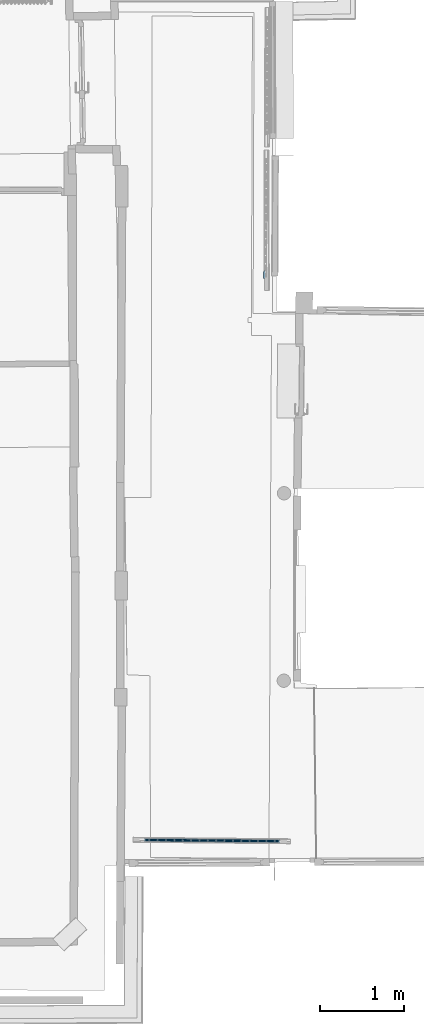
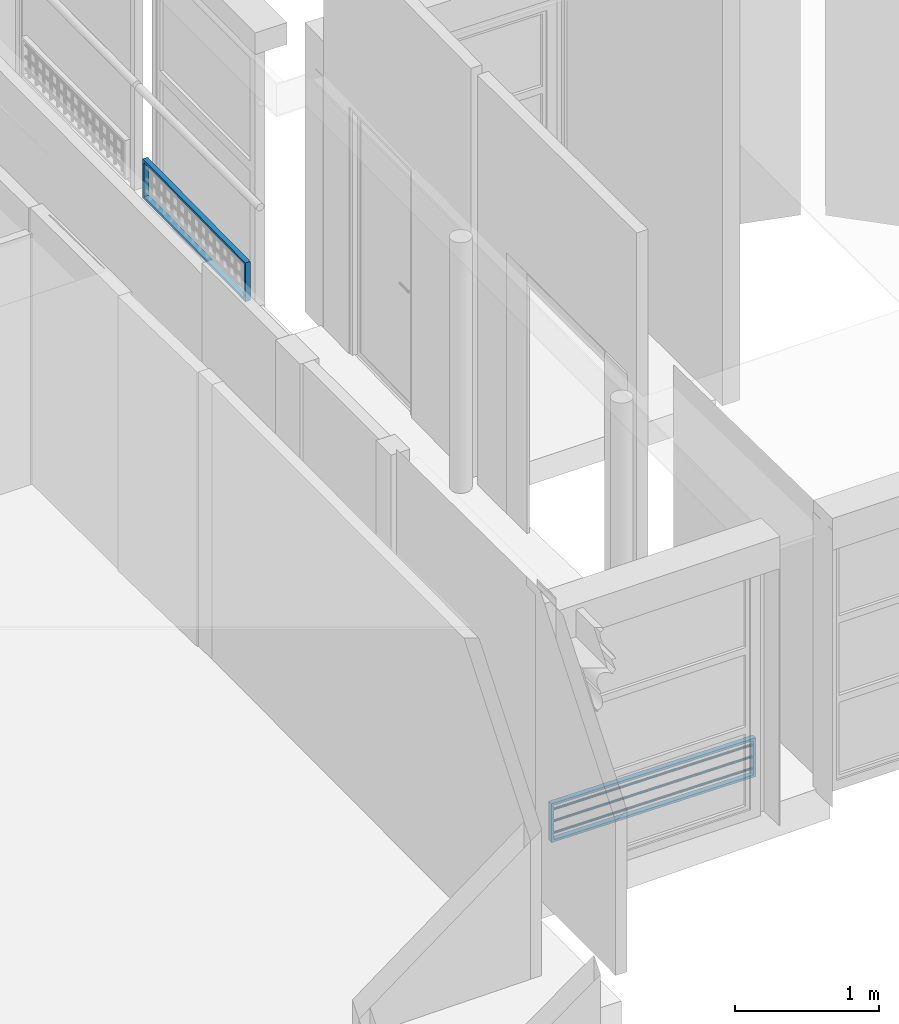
# One storey, part 26 of 72: 5 members, 2 elements without a shape of their own.
"""IFC2X3 building model written with IfcOpenShell, lengths in centimetres."""

from ifc_helpers import new_model, entity, si_unit, converted_unit, direction, frame, origin, origin_with_axes, place, context, subcontext, project, spatial, faceted_brep, material, type_object, element, aggregate, save


model = new_model("IFC2X3")

# Units and contexts
model_context = context("Model", 3, precision=0.0001, world=origin(), true_north=direction((0.225632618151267, 0.974212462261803, 0.0)))
body_context = subcontext(model_context, "Body", "Model", "MODEL_VIEW")
ifc_project = project(units=[si_unit("LENGTHUNIT", "METRE", prefix="CENTI"), si_unit("AREAUNIT", "SQUARE_METRE", prefix="CENTI"), si_unit("VOLUMEUNIT", "CUBIC_METRE", prefix="CENTI"), converted_unit("PLANEANGLEUNIT", "DEGREE", entity("IfcRatioMeasure", 0.0174532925), si_unit("PLANEANGLEUNIT", "RADIAN"), dimensions=[0, 0, 0, 0, 0, 0, 0])], contexts=[model_context])

# Site, building, storey
site_placement = place(None, origin_with_axes())
site = spatial("IfcSite", under=ifc_project, at=site_placement, Name="Default Site", CompositionType="ELEMENT")
building_placement = place(site_placement, origin_with_axes())
building = spatial("IfcBuilding", under=site, at=building_placement, Name="Default Building", CompositionType="ELEMENT")
storey_placement = place(building_placement, frame((0.0, 0.0, 853.910374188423), z_axis=(0.0, 0.0, 1.0), x_axis=(1.0, 0.0, 0.0)))
storey = spatial("IfcBuildingStorey", under=building, at=storey_placement, Name="Niveau 2", CompositionType="ELEMENT", Elevation=853.910374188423)

# Assembly, members
building_element_proxy_type = type_object("IfcBuildingElementProxyType", Name="Type Object", PredefinedType="NOTDEFINED")
assembly_1_placement = place(storey_placement, frame((1081.02208703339, -852.418210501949, 11.9999999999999), z_axis=(0.0, 0.0, 1.0), x_axis=(-0.999957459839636, 0.00922380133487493, 0.0)))
assembly_1 = element("IfcElementAssembly", 1, at=assembly_1_placement, inside=storey, type_object=building_element_proxy_type, Name="Panneau 1702017", ObjectType="Precast panel", PredefinedType="USERDEFINED")
ifc_material = material(Name="Aluminium satiné")
member_1_placement = place(assembly_1_placement, frame((1.99999995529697, 1.99999995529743, 31.000000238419), z_axis=(1.0, -3.79904441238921e-15, -1.19636099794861e-17), x_axis=(3.79904441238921e-15, 1.0, 0.0)))
member_1 = element("IfcMember", 2, at=member_1_placement, material=ifc_material, Name="4294967193", context=body_context, shape_type="Brep", body=[
    faceted_brep([(1.85615411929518e-13, 0.0, -3.62904151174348e-13), (-3.99999991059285, 0.0, -3.47701034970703e-13), (-3.99999991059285, -29.0000002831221, -3.47701034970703e-13), (1.85615411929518e-13, -29.0000002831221, -3.62904151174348e-13), (-3.99999991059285, 0.0, -3.47638584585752e-13), (-3.99999991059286, 2.00000107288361, -1.99999995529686), (-3.99999991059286, -31.0000002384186, -1.99999995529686), (-3.99999991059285, -29.0000002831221, -3.47291639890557e-13), (1.7798262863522e-13, 2.00000107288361, -1.99999995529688), (1.7798262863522e-13, -31.0000002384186, -1.99999995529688), (1.85584186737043e-13, 1.41999750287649e-48, -3.62904151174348e-13), (1.85584186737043e-13, -29.0000002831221, -3.62557206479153e-13), (1.85615411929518e-13, -29.0000002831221, -3.62557206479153e-13), (-3.99999991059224, -29.0000002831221, 159.000001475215), (7.89993070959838e-13, -29.0000002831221, 159.000001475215), (-3.99999991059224, -31.0000002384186, 160.999999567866), (7.97625854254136e-13, -31.0000002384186, 160.999999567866), (7.89908074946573e-13, -29.0000002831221, 159.000001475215), (7.97509625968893e-13, -31.0000002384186, 160.999999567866), (-3.99999991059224, 2.65645505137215e-31, 159.000001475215), (7.89993070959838e-13, 0.0, 159.000001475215), (-3.99999991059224, 2.00000107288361, 160.999999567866), (-3.99999991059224, 0.0, 159.000001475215), (7.97625854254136e-13, 2.00000107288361, 160.999999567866), (7.90024303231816e-13, -29.0000002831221, 159.000001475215), (7.90024303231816e-13, -1.4203194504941e-48, 159.000001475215), (-3.99999991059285, -1.90221400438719e-15, -3.47638584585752e-13), (1.85615411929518e-13, -1.90221400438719e-15, -3.62904151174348e-13), (-3.99999991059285, -3.1555328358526e-47, -3.47638584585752e-13), (1.7798262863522e-13, 2.0000010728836, -1.99999995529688), (-3.99999991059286, 2.0000010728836, -1.99999995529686), (1.85700415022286e-13, -3.86560241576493e-48, -3.62904151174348e-13), (1.78098856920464e-13, 2.00000107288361, -1.99999995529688)], [[[0, 1, 2, 3]], [[4, 5, 6, 7]], [[5, 8, 9, 6]], [[8, 10, 11, 9]], [[12, 7, 13, 14]], [[7, 6, 15, 13]], [[6, 9, 16, 15]], [[9, 11, 17, 18]], [[14, 13, 19, 20]], [[13, 15, 21, 22]], [[15, 16, 23, 21]], [[16, 24, 25, 23]], [[20, 22, 26, 27]], [[22, 21, 5, 28]], [[21, 23, 29, 30]], [[23, 25, 31, 32]]]),
])
member_2_placement = place(assembly_1_placement, frame((161.000001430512, 0.342020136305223, 25.560307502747), z_axis=(1.0, 2.21832968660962e-13, 1.2807376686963e-13), x_axis=(2.56149268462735e-13, -0.86602415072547, -0.500002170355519)))
member_2 = element("IfcMember", 3, at=member_2_placement, material=ifc_material, Name="4294967192", context=body_context, shape_type="Brep", body=[
    faceted_brep([(-4.91273688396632e-13, 0.0, -2.66453525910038e-13), (-0.347296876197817, -3.33066907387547e-14, -1.77494890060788e-13), (-0.673647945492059, -0.11877972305, -9.3901434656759e-14), (-0.939693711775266, -0.342018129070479, -2.57549292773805e-14), (-1.11334216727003, -0.642784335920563, 1.87243931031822e-14), (-1.17365112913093, -0.984805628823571, 3.41722803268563e-14), (-1.11334356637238, -1.32682410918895, 1.87247514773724e-14), (-0.939696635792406, -1.6275928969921, -2.57541803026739e-14), (-0.673653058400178, -1.85083187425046, -9.39001250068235e-14), (-0.347301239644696, -1.96961451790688, -1.77493772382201e-13), (-4.36344737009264e-06, -1.96961451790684, -2.6645240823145e-13), (0.326346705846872, -1.85083479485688, -3.50045863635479e-13), (0.592392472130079, -1.6275963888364, -4.18192369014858e-13), (0.766040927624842, -1.32683018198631, -4.62671691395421e-13), (0.826349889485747, -0.984808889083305, -4.78119578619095e-13), (0.766042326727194, -0.642790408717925, -4.6267204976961e-13), (0.592395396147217, -0.342021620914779, -4.18193117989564e-13), (0.326351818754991, -0.118782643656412, -3.50047173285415e-13), (0.326351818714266, -0.118782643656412, -159.000001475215), (0.592395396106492, -0.342021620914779, -159.000001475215), (0.766042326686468, -0.642790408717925, -159.000001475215), (0.826349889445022, -0.984808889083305, -159.000001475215), (0.766040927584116, -1.32683018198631, -159.000001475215), (0.592392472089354, -1.6275963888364, -159.000001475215), (0.326346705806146, -1.85083479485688, -159.000001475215), (-4.3634880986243e-06, -1.96961451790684, -159.000001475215), (-0.347301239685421, -1.96961451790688, -159.000001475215), (-0.673653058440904, -1.85083187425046, -159.000001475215), (-0.939696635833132, -1.6275928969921, -159.000001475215), (-1.11334356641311, -1.32682410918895, -159.000001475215), (-1.17365112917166, -0.984805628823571, -159.000001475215), (-1.11334216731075, -0.642784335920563, -159.000001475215), (-0.939693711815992, -0.342018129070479, -159.000001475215), (-0.673647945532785, -0.11877972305, -159.000001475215), (-0.34729687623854, -3.33066907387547e-14, -159.000001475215), (-4.12170297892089e-11, 0.0, -159.000001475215), (0.326351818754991, -0.118782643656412, -3.33066907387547e-13), (0.592395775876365, -0.34202116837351, -3.99680386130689e-13), (0.592395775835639, -0.342021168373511, -159.000001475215), (0.326351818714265, -0.118782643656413, -159.000001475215), (0.592395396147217, -0.342021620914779, -3.99680288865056e-13), (0.766043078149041, -0.642789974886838, -4.44089402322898e-13), (0.766043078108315, -0.642789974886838, -159.000001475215), (0.592395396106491, -0.342021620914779, -159.000001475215), (0.766042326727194, -0.642790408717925, -4.44089209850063e-13), (0.826348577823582, -0.984809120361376, -4.66293334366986e-13), (0.826348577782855, -0.984809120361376, -159.000001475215), (0.766042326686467, -0.642790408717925, -159.000001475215), (0.826349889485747, -0.984808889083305, -4.66293670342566e-13), (0.766041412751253, -1.32683026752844, -4.44089334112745e-13), (0.766041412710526, -1.32683026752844, -159.000001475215), (0.82634988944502, -0.984808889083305, -159.000001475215), (0.766040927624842, -1.32683018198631, -4.44089209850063e-13), (0.592392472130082, -1.6275963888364, -3.99680288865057e-13), (0.592392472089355, -1.6275963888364, -159.000001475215), (0.766040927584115, -1.32683018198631, -159.000001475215), (0.592392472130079, -1.6275963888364, -3.99680288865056e-13), (0.326346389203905, -1.85083441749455, -3.33066826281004e-13), (0.326346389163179, -1.85083441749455, -159.000001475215), (0.592392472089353, -1.6275963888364, -159.000001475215), (0.326346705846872, -1.85083479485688, -3.33066907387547e-13), (-3.90791524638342e-06, -1.96961576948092, -2.44249182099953e-13), (-3.90795597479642e-06, -1.96961576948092, -159.000001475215), (-4.36344737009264e-06, -1.96961451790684, -2.44249065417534e-13), (-0.347301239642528, -1.96961365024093, -1.55431223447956e-13), (-0.347301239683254, -1.96961365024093, -159.000001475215), (-0.347301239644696, -1.96961451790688, -1.55431223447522e-13), (-0.673652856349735, -1.85083131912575, -6.66134332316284e-14), (-0.673652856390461, -1.85083131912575, -159.000001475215), (-0.347301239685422, -1.96961451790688, -159.000001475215), (-0.673653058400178, -1.85083187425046, -6.66133814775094e-14), (-0.939697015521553, -1.62759334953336, -2.22043632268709e-14), (-0.939697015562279, -1.62759334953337, -159.000001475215), (-0.673653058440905, -1.85083187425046, -159.000001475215), (-0.939696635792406, -1.6275928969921, -2.22044604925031e-14), (-1.11334431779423, -1.32682454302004, 2.22046529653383e-14), (-1.11334431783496, -1.32682454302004, -159.000001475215), (-1.11334356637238, -1.32682410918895, 2.22044604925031e-14), (-1.17364981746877, -0.9848053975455, 6.66130455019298e-14), (-1.1736498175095, -0.9848053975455, -159.000001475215), (-1.17365112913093, -0.984805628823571, 6.66133814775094e-14), (-1.11334265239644, -0.64278425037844, 4.44090452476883e-14), (-1.11334265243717, -0.642784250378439, -159.000001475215), (-1.17365112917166, -0.98480562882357, -159.000001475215), (-1.11334216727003, -0.642784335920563, 4.44089209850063e-14), (-0.939693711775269, -0.342018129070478, 5.57974254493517e-28), (-0.939693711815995, -0.342018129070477, -159.000001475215), (-1.11334216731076, -0.642784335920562, -159.000001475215), (-0.939693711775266, -0.342018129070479, 0.0), (-0.673647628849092, -0.118780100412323, -6.66134625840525e-14), (-0.673647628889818, -0.118780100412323, -159.000001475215), (-0.939693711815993, -0.342018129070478, -159.000001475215), (-0.673647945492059, -0.11877972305, -6.66133814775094e-14), (-0.34729733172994, 1.25157403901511e-06, -1.77635567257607e-13), (-0.347297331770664, 1.25157404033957e-06, -159.000001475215), (-0.673647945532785, -0.118779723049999, -159.000001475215), (-0.347296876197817, -3.33066907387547e-14, -1.77635683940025e-13), (-2.65899883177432e-12, -8.67665949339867e-07, -2.66453525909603e-13), (-4.33847549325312e-11, -8.67665949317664e-07, -159.000001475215), (-0.34729687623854, -3.32844945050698e-14, -159.000001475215), (0.326351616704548, -0.118783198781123, -3.33066855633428e-13), (0.326351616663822, -0.118783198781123, -159.000001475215), (-4.12171733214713e-11, -3.94348580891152e-16, -159.000001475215)], [[[0, 1, 2, 3, 4, 5, 6, 7, 8, 9, 10, 11, 12, 13, 14, 15, 16, 17]], [[18, 19, 20, 21, 22, 23, 24, 25, 26, 27, 28, 29, 30, 31, 32, 33, 34, 35]], [[36, 37, 38, 39]], [[40, 41, 42, 43]], [[44, 45, 46, 47]], [[48, 49, 50, 51]], [[52, 53, 54, 55]], [[56, 57, 58, 59]], [[60, 61, 62, 24]], [[63, 64, 65, 25]], [[66, 67, 68, 69]], [[70, 71, 72, 73]], [[74, 75, 76, 28]], [[77, 78, 79, 29]], [[80, 81, 82, 83]], [[84, 85, 86, 87]], [[88, 89, 90, 91]], [[92, 93, 94, 95]], [[96, 97, 98, 99]], [[0, 100, 101, 102]]]),
])
member_3_placement = place(assembly_1_placement, frame((161.000001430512, 0.342020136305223, 15.5603080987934), z_axis=(1.0, 2.21832968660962e-13, 1.2807376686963e-13), x_axis=(2.56151003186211e-13, -0.866026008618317, -0.49999895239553)))
member_3 = element("IfcMember", 4, at=member_3_placement, material=ifc_material, Name="4294967191", context=body_context, shape_type="Brep", body=[
    faceted_brep([(-2.85882428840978e-13, 5.55111512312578e-14, -2.88657986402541e-13), (-0.347296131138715, 2.22044604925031e-14, -1.99699541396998e-13), (-0.673647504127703, -0.118782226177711, -1.16105905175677e-13), (-0.939691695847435, -0.342020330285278, -4.79596094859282e-14), (-1.11333977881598, -0.642788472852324, -3.48012165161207e-15), (-1.17364672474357, -0.984808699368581, 1.19675458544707e-14), (-1.11333863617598, -1.32682824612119, -3.47982102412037e-15), (-0.939690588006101, -1.6275963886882, -4.79587781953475e-14), (-0.673645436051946, -1.8508330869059, -1.16104932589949e-13), (-0.347293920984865, -1.96961580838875, -1.99698399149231e-13), (2.95521006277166e-06, -1.9696145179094, -2.88657034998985e-13), (0.326354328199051, -1.85083229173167, -3.72250671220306e-13), (0.592398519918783, -1.6275941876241, -4.40396966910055e-13), (0.766046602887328, -1.32682604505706, -4.84876454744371e-13), (0.82635354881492, -0.984805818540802, -5.00324122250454e-13), (0.766045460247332, -0.642786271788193, -4.84876755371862e-13), (0.59239666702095, -0.342019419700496, -4.40397607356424e-13), (0.326352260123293, -0.118781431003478, -3.72251643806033e-13), (0.326352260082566, -0.118781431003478, -159.000001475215), (0.592396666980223, -0.342019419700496, -159.000001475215), (0.766045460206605, -0.642786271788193, -159.000001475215), (0.826353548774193, -0.984805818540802, -159.000001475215), (0.766046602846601, -1.32682604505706, -159.000001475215), (0.592398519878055, -1.6275941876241, -159.000001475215), (0.326354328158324, -1.85083229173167, -159.000001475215), (2.95516933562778e-06, -1.9696145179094, -159.000001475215), (-0.347293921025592, -1.96961580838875, -159.000001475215), (-0.673645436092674, -1.8508330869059, -159.000001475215), (-0.939690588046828, -1.6275963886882, -159.000001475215), (-1.11333863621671, -1.32682824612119, -159.000001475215), (-1.1736467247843, -0.984808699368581, -159.000001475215), (-1.11333977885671, -0.642788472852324, -159.000001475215), (-0.939691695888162, -0.342020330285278, -159.000001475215), (-0.67364750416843, -0.118782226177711, -159.000001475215), (-0.347296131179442, 2.22044604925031e-14, -159.000001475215), (-4.10130263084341e-11, 5.55111512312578e-14, -159.000001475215), (0.326352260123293, -0.118781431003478, -3.77475828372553e-13), (0.592397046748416, -0.342018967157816, -4.21884846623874e-13), (0.592397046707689, -0.342018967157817, -159.000001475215), (0.326352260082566, -0.118781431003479, -159.000001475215), (0.59239666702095, -0.342019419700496, -4.21884749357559e-13), (0.766045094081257, -0.642786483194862, -4.66293576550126e-13), (0.766045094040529, -0.642786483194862, -159.000001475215), (0.766045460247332, -0.642786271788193, -4.66293670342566e-13), (0.826353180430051, -0.984805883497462, -5.10702496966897e-13), (0.826353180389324, -0.984805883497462, -159.000001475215), (0.766045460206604, -0.642786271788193, -159.000001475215), (0.82635354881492, -0.984805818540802, -5.10702591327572e-13), (0.766046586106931, -1.32682604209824, -4.88498126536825e-13), (0.766046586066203, -1.32682604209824, -159.000001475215), (0.766046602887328, -1.32682604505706, -4.88498130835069e-13), (0.592398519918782, -1.6275941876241, -4.44089209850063e-13), (0.592398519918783, -1.6275941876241, -4.44089209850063e-13), (0.326354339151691, -1.85083230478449, -3.77475831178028e-13), (0.326354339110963, -1.85083230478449, -159.000001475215), (0.326354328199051, -1.85083229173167, -3.77475828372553e-13), (3.08314922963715e-06, -1.96961486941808, -2.66453558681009e-13), (3.08310850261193e-06, -1.96961486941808, -159.000001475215), (2.95521006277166e-06, -1.9696145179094, -2.66453525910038e-13), (-0.347293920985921, -1.9696149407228, -1.77635683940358e-13), (-0.347293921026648, -1.9696149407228, -159.000001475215), (-0.347293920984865, -1.96961580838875, -1.77635683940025e-13), (-0.673645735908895, -1.85083391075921, -1.11022225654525e-13), (-0.673645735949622, -1.85083391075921, -159.000001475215), (-0.673645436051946, -1.8508330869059, -1.11022302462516e-13), (-0.939690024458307, -1.62759571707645, -4.44090653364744e-14), (-0.939690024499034, -1.62759571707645, -159.000001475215), (-0.939690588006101, -1.6275963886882, -4.44089209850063e-14), (-1.11333938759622, -1.32682867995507, 1.92474239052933e-19), (-1.11333938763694, -1.32682867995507, -159.000001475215), (-1.11333863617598, -1.32682824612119, 0.0), (-1.1736463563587, -0.984808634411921, 2.22043661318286e-14), (-1.17364635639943, -0.984808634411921, -159.000001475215), (-1.17364672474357, -0.984808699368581, 2.22044604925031e-14), (-1.11333976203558, -0.642788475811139, -4.29824416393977e-21), (-1.11333976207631, -0.642788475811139, -159.000001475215), (-1.11333977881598, -0.642788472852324, 0.0), (-0.939691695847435, -0.342020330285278, -4.44089209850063e-14), (-0.673647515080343, -0.118782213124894, -1.1102229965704e-13), (-0.67364751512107, -0.118782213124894, -159.000001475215), (-0.673647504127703, -0.118782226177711, -1.11022302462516e-13), (-0.347296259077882, 3.51508696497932e-07, -1.99840111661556e-13), (-0.347296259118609, 3.51508696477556e-07, -159.000001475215), (-0.347296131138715, 2.22044604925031e-14, -1.99840144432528e-13), (-8.00631582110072e-13, 4.22812514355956e-07, -2.88657986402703e-13), (-4.15277754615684e-11, 4.22812514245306e-07, -159.000001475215), (-0.347296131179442, 2.20938105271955e-14, -159.000001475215), (0.326352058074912, -0.118781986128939, -3.77475776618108e-13), (0.326352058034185, -0.11878198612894, -159.000001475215), (-4.1013086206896e-11, 5.53465809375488e-14, -159.000001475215)], [[[0, 1, 2, 3, 4, 5, 6, 7, 8, 9, 10, 11, 12, 13, 14, 15, 16, 17]], [[18, 19, 20, 21, 22, 23, 24, 25, 26, 27, 28, 29, 30, 31, 32, 33, 34, 35]], [[36, 37, 38, 39]], [[40, 41, 42, 19]], [[43, 44, 45, 46]], [[47, 48, 49, 21]], [[50, 51, 23, 22]], [[52, 53, 54, 23]], [[55, 56, 57, 24]], [[58, 59, 60, 25]], [[61, 62, 63, 26]], [[64, 65, 66, 27]], [[67, 68, 69, 28]], [[70, 71, 72, 29]], [[73, 74, 75, 30]], [[76, 77, 32, 31]], [[77, 78, 79, 32]], [[80, 81, 82, 33]], [[83, 84, 85, 86]], [[0, 87, 88, 89]]]),
])
member_4_placement = place(assembly_1_placement, frame((161.000001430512, 0.342020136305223, 5.56030720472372), z_axis=(1.0, 2.21834703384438e-13, 1.28074634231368e-13), x_axis=(2.56151003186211e-13, -0.866025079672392, -0.500000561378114)))
member_4 = element("IfcMember", 5, at=member_4_placement, material=ifc_material, Name="4294967190", context=body_context, shape_type="Brep", body=[
    faceted_brep([(-1.06165076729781e-13, 5.41233724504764e-14, -1.33226762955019e-13), (-0.347296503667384, 1.94289029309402e-14, -4.42676200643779e-14), (-0.67364828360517, -0.11878194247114, 3.93265834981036e-14), (-0.939693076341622, -0.342019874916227, 1.07473301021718e-13), (-1.11334134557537, -0.642787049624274, 1.51952876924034e-13), (-1.17364892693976, -0.984807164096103, 1.67400515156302e-13), (-1.11334184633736, -1.32682746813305, 1.51953005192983e-13), (-0.939693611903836, -1.62759464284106, 1.07473438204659e-13), (-0.67364961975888, -1.85083312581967, 3.9326925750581e-14), (-0.347297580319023, -1.9696151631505, -4.42673442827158e-14), (-1.44918119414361e-06, -1.96961580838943, -1.33226391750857e-13), (0.326350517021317, -1.85083354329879, -2.16820643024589e-13), (0.592395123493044, -1.62759593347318, -2.84967312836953e-13), (0.766043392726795, -1.32682875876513, -3.2944688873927e-13), (0.826351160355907, -0.984808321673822, -3.44894574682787e-13), (0.766043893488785, -0.64278834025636, -3.29447017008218e-13), (0.592396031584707, -0.342020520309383, -2.84967545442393e-13), (0.326351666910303, -0.118782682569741, -2.16820937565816e-13), (0.326351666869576, -0.118782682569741, -159.000001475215), (0.59239603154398, -0.342020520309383, -159.000001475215), (0.766043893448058, -0.64278834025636, -159.000001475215), (0.82635116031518, -0.984808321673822, -159.000001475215), (0.766043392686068, -1.32682875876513, -159.000001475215), (0.592395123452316, -1.62759593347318, -159.000001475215), (0.326350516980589, -1.85083354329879, -159.000001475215), (-1.44922192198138e-06, -1.96961580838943, -159.000001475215), (-0.347297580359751, -1.9696151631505, -159.000001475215), (-0.673649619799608, -1.85083312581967, -159.000001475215), (-0.939693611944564, -1.62759464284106, -159.000001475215), (-1.11334184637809, -1.32682746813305, -159.000001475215), (-1.17364892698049, -0.984807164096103, -159.000001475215), (-1.1133413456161, -0.642787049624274, -159.000001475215), (-0.93969307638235, -0.342019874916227, -159.000001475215), (-0.673648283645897, -0.11878194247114, -159.000001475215), (-0.347296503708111, 1.94289029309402e-14, -159.000001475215), (-4.08333089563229e-11, 5.41233724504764e-14, -159.000001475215), (0.326351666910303, -0.118782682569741, -1.99840144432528e-13), (0.592395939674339, -0.342020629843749, -2.66453502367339e-13), (0.592395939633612, -0.342020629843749, -159.000001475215), (0.326351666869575, -0.118782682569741, -159.000001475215), (0.592396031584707, -0.342020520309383, -2.66453525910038e-13), (0.766044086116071, -0.642788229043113, -3.10862496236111e-13), (0.766044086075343, -0.642788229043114, -159.000001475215), (0.766043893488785, -0.64278834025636, -3.10862446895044e-13), (0.826351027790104, -0.984808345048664, -3.33066873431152e-13), (0.826351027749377, -0.984808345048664, -159.000001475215), (0.766043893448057, -0.64278834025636, -159.000001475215), (0.826351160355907, -0.984808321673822, -3.33066907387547e-13), (0.766043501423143, -1.32682877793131, -3.33066935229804e-13), (0.766043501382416, -1.32682877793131, -159.000001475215), (0.766043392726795, -1.32682875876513, -3.33066907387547e-13), (0.592395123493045, -1.62759593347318, -2.88657986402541e-13), (0.766043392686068, -1.32682875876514, -159.000001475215), (0.592395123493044, -1.62759593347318, -2.88657986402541e-13), (0.326350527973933, -1.85083355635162, -2.22044607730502e-13), (0.326350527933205, -1.85083355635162, -159.000001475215), (0.326350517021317, -1.85083354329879, -2.22044604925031e-13), (-1.4850406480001e-06, -1.96961570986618, -1.11022293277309e-13), (-1.4850813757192e-06, -1.96961570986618, -159.000001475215), (-1.44918119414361e-06, -1.96961580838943, -1.11022302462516e-13), (-0.347297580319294, -1.96961558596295, -2.22044604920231e-14), (-0.347297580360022, -1.96961558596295, -159.000001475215), (-0.347297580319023, -1.9696151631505, -2.22044604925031e-14), (-0.673649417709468, -1.85083257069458, 4.44088692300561e-14), (-0.673649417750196, -1.85083257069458, -159.000001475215), (-0.67364961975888, -1.85083312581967, 4.44089209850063e-14), (-0.939693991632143, -1.62759509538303, 1.11022399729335e-13), (-0.93969399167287, -1.62759509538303, -159.000001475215), (-0.939693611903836, -1.62759464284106, 1.11022302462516e-13), (-1.1133414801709, -1.32682725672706, 1.55431129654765e-13), (-1.11334148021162, -1.32682725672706, -159.000001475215), (-1.11334184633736, -1.32682746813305, 1.55431223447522e-13), (-1.17364903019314, -0.984807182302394, 1.77635710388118e-13), (-1.17364903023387, -0.984807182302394, -159.000001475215), (-1.17364892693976, -0.984807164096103, 1.77635683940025e-13), (-1.11334132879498, -0.642787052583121, 1.55431219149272e-13), (-1.11334132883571, -0.642787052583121, -159.000001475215), (-1.11334134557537, -0.642787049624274, 1.55431223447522e-13), (-0.939693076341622, -0.342019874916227, 1.11022302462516e-13), (-1.1133413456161, -0.642787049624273, -159.000001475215), (-0.673648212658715, -0.118782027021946, 6.66133633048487e-14), (-0.673648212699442, -0.118782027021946, -159.000001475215), (-0.93969307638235, -0.342019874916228, -159.000001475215), (-0.67364828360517, -0.11878194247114, 6.66133814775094e-14), (-0.347296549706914, 1.26492852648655e-07, -4.44089091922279e-14), (-0.347296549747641, 1.26492852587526e-07, -159.000001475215), (-0.347296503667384, 1.94289029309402e-14, -4.44089209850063e-14), (-2.48618713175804e-13, -2.22426692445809e-07, -1.33226762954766e-13), (-4.09757625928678e-11, -2.22426692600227e-07, -159.000001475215), (-0.347296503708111, 1.92744856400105e-14, -159.000001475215), (0.326351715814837, -0.118782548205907, -1.99840156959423e-13), (0.326351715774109, -0.118782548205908, -159.000001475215), (-4.08333909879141e-11, 5.3897992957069e-14, -159.000001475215)], [[[0, 1, 2, 3, 4, 5, 6, 7, 8, 9, 10, 11, 12, 13, 14, 15, 16, 17]], [[18, 19, 20, 21, 22, 23, 24, 25, 26, 27, 28, 29, 30, 31, 32, 33, 34, 35]], [[36, 37, 38, 39]], [[40, 41, 42, 19]], [[43, 44, 45, 46]], [[47, 48, 49, 21]], [[50, 51, 23, 52]], [[53, 54, 55, 23]], [[56, 57, 58, 24]], [[59, 60, 61, 25]], [[62, 63, 64, 26]], [[65, 66, 67, 27]], [[68, 69, 70, 28]], [[71, 72, 73, 29]], [[74, 75, 76, 30]], [[77, 78, 32, 79]], [[78, 80, 81, 82]], [[83, 84, 85, 33]], [[86, 87, 88, 89]], [[0, 90, 91, 92]]]),
])
aggregate(assembly_1, [member_1, member_2, member_3, member_4])

# Assembly, member
assembly_2_placement = place(storey_placement, frame((1064.66913892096, -34.4836063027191, 11.9999999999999), z_axis=(0.0, 0.0, 1.0), x_axis=(-0.00922380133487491, -0.999957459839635, 0.0)))
assembly_2 = element("IfcElementAssembly", 6, at=assembly_2_placement, inside=storey, type_object=building_element_proxy_type, Name="Panneau 1702022", ObjectType="Precast panel", PredefinedType="USERDEFINED")
member_5_placement = place(assembly_2_placement, frame((1.99999995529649, 1.9999999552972, 31.0000002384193), z_axis=(1.0, -1.03909936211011e-15, -1.19636099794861e-17), x_axis=(1.03909936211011e-15, 1.0, 0.0)))
member_5 = element("IfcMember", 7, at=member_5_placement, material=ifc_material, Name="4294967173", context=body_context, shape_type="Brep", body=[
    faceted_brep([(-1.74513181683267e-13, -3.44169137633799e-13, -6.93889390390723e-15), (-3.99999991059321, -3.44169137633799e-13, -2.7061687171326e-15), (-3.99999991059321, -29.0000002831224, -2.7061687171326e-15), (-1.74513181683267e-13, -29.0000002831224, -6.93889390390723e-15), (-3.99999991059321, -3.44169137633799e-13, -2.77555756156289e-15), (-3.99999991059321, 2.00000107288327, -1.99999995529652), (-3.99999991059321, -31.0000002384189, -1.99999995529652), (-3.99999991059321, -29.0000002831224, -2.42861286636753e-15), (-1.76594849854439e-13, 2.00000107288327, -1.99999995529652), (-1.76594849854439e-13, -31.0000002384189, -1.99999995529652), (-1.74478487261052e-13, -3.44169137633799e-13, -6.93889390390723e-15), (-1.74478487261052e-13, -29.0000002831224, -6.59194920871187e-15), (-1.74513181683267e-13, -29.0000002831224, -6.59194920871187e-15), (-3.99999991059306, -29.0000002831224, 140.999994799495), (-2.53269627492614e-14, -29.0000002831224, 140.999994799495), (-3.99999991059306, -31.0000002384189, 143.000004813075), (-2.32452945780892e-14, -31.0000002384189, 143.000004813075), (-2.5274926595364e-14, -29.0000002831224, 140.999994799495), (-2.31585533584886e-14, -31.0000002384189, 143.000004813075), (-3.99999991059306, -3.44169137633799e-13, 140.999994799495), (-2.53269627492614e-14, -3.44169137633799e-13, 140.999994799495), (-3.99999991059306, 2.00000107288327, 143.000004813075), (-2.32452945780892e-14, 2.00000107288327, 143.000004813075), (-2.53616678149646e-14, -29.0000002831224, 140.999994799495), (-2.53616678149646e-14, -3.44169137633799e-13, 140.999994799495), (-3.99999991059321, -3.45856006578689e-13, -2.77555756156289e-15), (-1.74513181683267e-13, -3.45856006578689e-13, -6.93889390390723e-15), (-1.74565228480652e-13, -3.44169137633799e-13, -6.93889390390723e-15), (-1.7668159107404e-13, 2.00000107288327, -1.99999995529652)], [[[0, 1, 2, 3]], [[4, 5, 6, 7]], [[5, 8, 9, 6]], [[8, 10, 11, 9]], [[12, 7, 13, 14]], [[7, 6, 15, 13]], [[6, 9, 16, 15]], [[9, 11, 17, 18]], [[14, 13, 19, 20]], [[13, 15, 21, 19]], [[15, 16, 22, 21]], [[16, 23, 24, 22]], [[20, 19, 25, 26]], [[19, 21, 5, 4]], [[21, 22, 8, 5]], [[22, 24, 27, 28]]]),
])
aggregate(assembly_2, [member_5])

save(model, "model.ifc")
